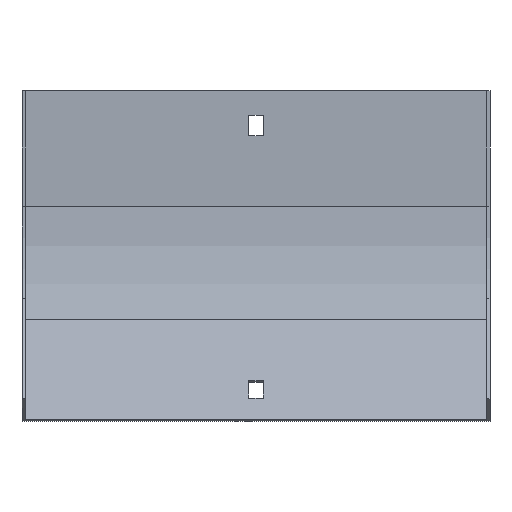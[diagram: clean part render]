
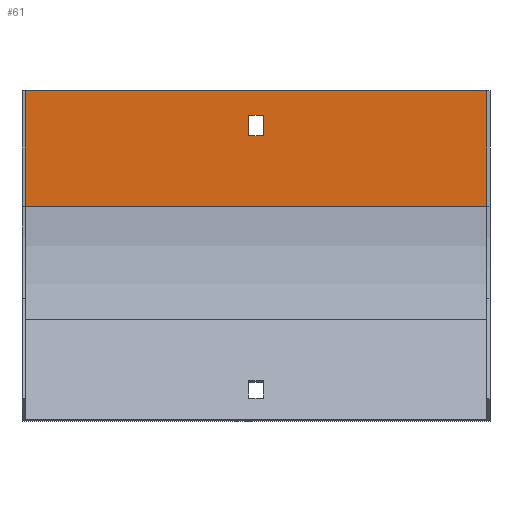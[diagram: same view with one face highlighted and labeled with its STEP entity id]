
A CAD part, front view. The second image highlights one B-rep face of the part: STEP entity #61.
In plain terms, the highlighted planar face has unit normal (0, -1, 0).
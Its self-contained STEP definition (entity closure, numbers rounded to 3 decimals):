
#4 = CARTESIAN_POINT ( 'NONE',  ( 103.5, -1.5, -51.2 ) ) ;
#8 = VECTOR ( 'NONE', #256, 1000. ) ;
#20 = LINE ( 'NONE', #356, #693 ) ;
#25 = CARTESIAN_POINT ( 'NONE',  ( -3.25, -1.5, -20. ) ) ;
#39 = DIRECTION ( 'NONE',  ( 0., 0., 1. ) ) ;
#42 = CARTESIAN_POINT ( 'NONE',  ( 102., -1.5, 0. ) ) ;
#45 = EDGE_CURVE ( 'NONE', #164, #123, #323, .T. ) ;
#46 = VERTEX_POINT ( 'NONE', #345 ) ;
#58 = VERTEX_POINT ( 'NONE', #329 ) ;
#61 = ADVANCED_FACE ( 'NONE', ( #852, #210 ), #541, .T. ) ;
#65 = EDGE_CURVE ( 'NONE', #123, #838, #720, .T. ) ;
#76 = CARTESIAN_POINT ( 'NONE',  ( 102., -1.5, -51.2 ) ) ;
#108 = CARTESIAN_POINT ( 'NONE',  ( 103.5, -1.5, -11. ) ) ;
#116 = LINE ( 'NONE', #191, #788 ) ;
#123 = VERTEX_POINT ( 'NONE', #42 ) ;
#125 = VERTEX_POINT ( 'NONE', #571 ) ;
#126 = EDGE_CURVE ( 'NONE', #125, #58, #833, .T. ) ;
#138 = DIRECTION ( 'NONE',  ( 0., -1., 0. ) ) ;
#146 = EDGE_CURVE ( 'NONE', #164, #388, #674, .T. ) ;
#161 = CARTESIAN_POINT ( 'NONE',  ( -102., -1.5, -51.2 ) ) ;
#164 = VERTEX_POINT ( 'NONE', #76 ) ;
#176 = ORIENTED_EDGE ( 'NONE', *, *, #146, .F. ) ;
#191 = CARTESIAN_POINT ( 'NONE',  ( 3.25, -1.5, 0. ) ) ;
#192 = DIRECTION ( 'NONE',  ( -1., 0., 0. ) ) ;
#209 = VECTOR ( 'NONE', #784, 1000. ) ;
#210 = FACE_OUTER_BOUND ( 'NONE', #446, .T. ) ;
#253 = DIRECTION ( 'NONE',  ( 0., 0., -1. ) ) ;
#256 = DIRECTION ( 'NONE',  ( -1., 0., 0. ) ) ;
#267 = CARTESIAN_POINT ( 'NONE',  ( -102., -1.5, 0. ) ) ;
#273 = CARTESIAN_POINT ( 'NONE',  ( 102., -1.5, -51.2 ) ) ;
#289 = DIRECTION ( 'NONE',  ( 1., 0., 0. ) ) ;
#299 = ORIENTED_EDGE ( 'NONE', *, *, #616, .F. ) ;
#322 = VECTOR ( 'NONE', #39, 1000. ) ;
#323 = LINE ( 'NONE', #273, #209 ) ;
#329 = CARTESIAN_POINT ( 'NONE',  ( -3.25, -1.5, -11. ) ) ;
#339 = ORIENTED_EDGE ( 'NONE', *, *, #65, .T. ) ;
#345 = CARTESIAN_POINT ( 'NONE',  ( 3.25, -1.5, -20. ) ) ;
#356 = CARTESIAN_POINT ( 'NONE',  ( -3.25, -1.5, 0. ) ) ;
#369 = DIRECTION ( 'NONE',  ( 0., 0., 1. ) ) ;
#378 = DIRECTION ( 'NONE',  ( -1., 0., 0. ) ) ;
#385 = VECTOR ( 'NONE', #378, 1000. ) ;
#388 = VERTEX_POINT ( 'NONE', #161 ) ;
#408 = VECTOR ( 'NONE', #289, 1000. ) ;
#432 = EDGE_LOOP ( 'NONE', ( #574, #714, #299, #641 ) ) ;
#446 = EDGE_LOOP ( 'NONE', ( #831, #176, #691, #339 ) ) ;
#536 = VERTEX_POINT ( 'NONE', #25 ) ;
#541 = PLANE ( 'NONE',  #546 ) ;
#546 = AXIS2_PLACEMENT_3D ( 'NONE', #723, #138, #253 ) ;
#554 = LINE ( 'NONE', #816, #408 ) ;
#571 = CARTESIAN_POINT ( 'NONE',  ( 3.25, -1.5, -11. ) ) ;
#574 = ORIENTED_EDGE ( 'NONE', *, *, #578, .F. ) ;
#578 = EDGE_CURVE ( 'NONE', #58, #536, #20, .T. ) ;
#604 = EDGE_CURVE ( 'NONE', #536, #46, #554, .T. ) ;
#616 = EDGE_CURVE ( 'NONE', #46, #125, #116, .T. ) ;
#641 = ORIENTED_EDGE ( 'NONE', *, *, #604, .F. ) ;
#642 = CARTESIAN_POINT ( 'NONE',  ( -102., -1.5, -51.2 ) ) ;
#646 = VECTOR ( 'NONE', #192, 1000. ) ;
#674 = LINE ( 'NONE', #4, #8 ) ;
#691 = ORIENTED_EDGE ( 'NONE', *, *, #45, .T. ) ;
#693 = VECTOR ( 'NONE', #813, 1000. ) ;
#714 = ORIENTED_EDGE ( 'NONE', *, *, #126, .F. ) ;
#720 = LINE ( 'NONE', #800, #646 ) ;
#723 = CARTESIAN_POINT ( 'NONE',  ( 103.5, -1.5, 0. ) ) ;
#745 = EDGE_CURVE ( 'NONE', #388, #838, #763, .T. ) ;
#763 = LINE ( 'NONE', #642, #322 ) ;
#784 = DIRECTION ( 'NONE',  ( 0., 0., 1. ) ) ;
#788 = VECTOR ( 'NONE', #369, 1000. ) ;
#800 = CARTESIAN_POINT ( 'NONE',  ( 103.5, -1.5, 0. ) ) ;
#813 = DIRECTION ( 'NONE',  ( 0., 0., -1. ) ) ;
#816 = CARTESIAN_POINT ( 'NONE',  ( 103.5, -1.5, -20. ) ) ;
#831 = ORIENTED_EDGE ( 'NONE', *, *, #745, .F. ) ;
#833 = LINE ( 'NONE', #108, #385 ) ;
#838 = VERTEX_POINT ( 'NONE', #267 ) ;
#852 = FACE_BOUND ( 'NONE', #432, .T. ) ;
